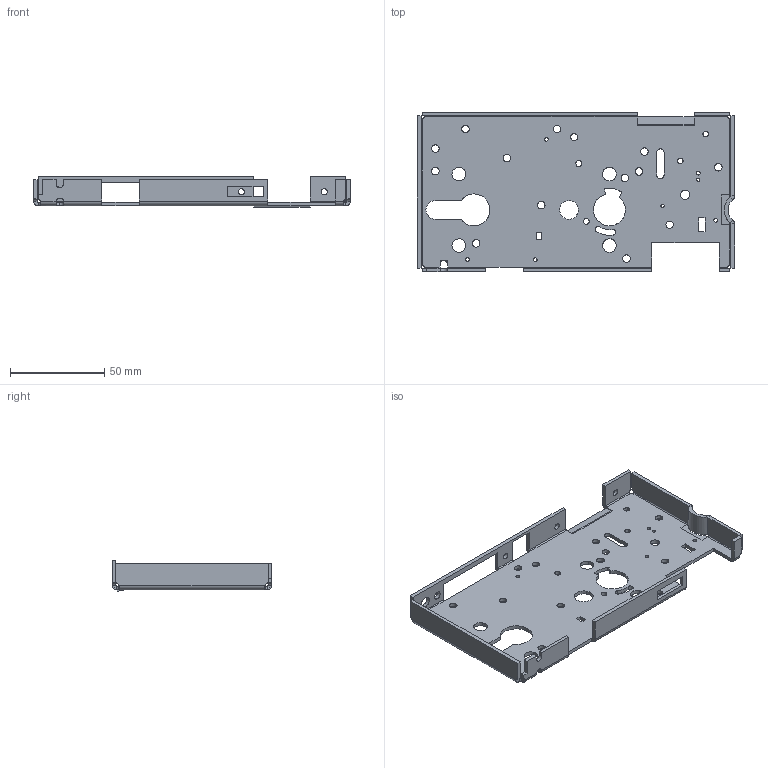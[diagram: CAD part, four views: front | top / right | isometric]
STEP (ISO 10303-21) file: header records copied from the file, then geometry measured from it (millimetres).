
FILE_DESCRIPTION(('CATIA V5 STEP Exchange'),'2;1');
FILE_NAME('C:\model\lock-001.44.002.41_1.1.1.1.stp','2022-08-26T10:52:08+00:00',('none'),('none'),'CATIA Version 5 Release 19 SP 8 (IN-10)','CATIA V5 STEP AP214','none');
FILE_SCHEMA(('AUTOMOTIVE_DESIGN { 1 0 10303 214 1 1 1 1 }'));
Length unit declared in the file: millimetre
Products named in the file (1): lock-001.44.002.41_1.1.1.1
Bounding box: 168.5 x 85 x 16.2 mm (x, y, z)
Volume: 32216.4 mm3; surface area: 35674.9 mm2
Topology: 1 solids, 1 shells, 273 faces, 721 edges, 442 vertices
Faces by surface type: cylinder 139, plane 114, bspline 20
Entity records: 9372 total; most frequent: CARTESIAN_POINT 2796, ORIENTED_EDGE 1442, DIRECTION 929, EDGE_CURVE 721, VERTEX_POINT 442, VECTOR 397, LINE 397, EDGE_LOOP 359
